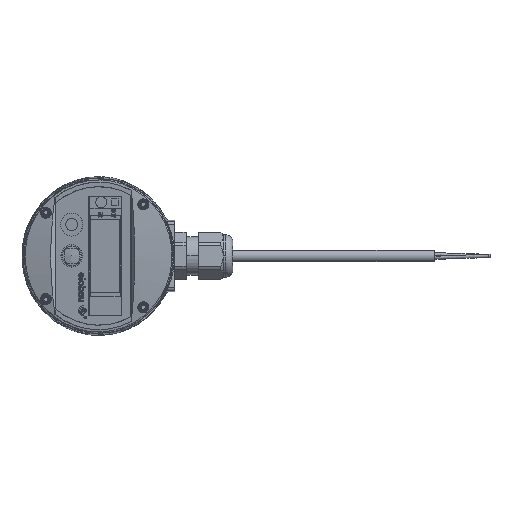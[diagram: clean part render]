
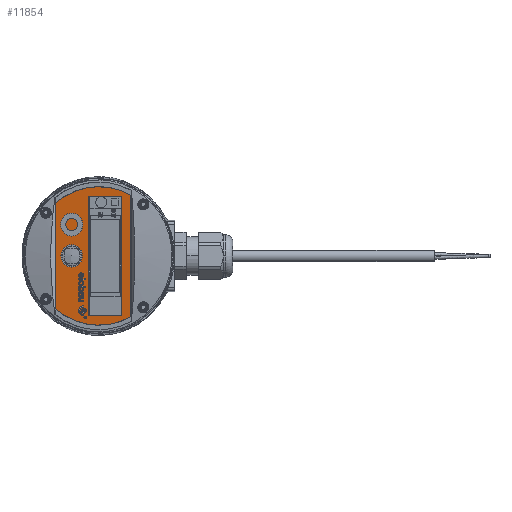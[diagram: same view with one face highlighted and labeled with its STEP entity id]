
A CAD part, top view. The second image highlights one B-rep face of the part: STEP entity #11854.
In plain terms, the highlighted planar face has unit normal (-0.259, 0, 0.966).
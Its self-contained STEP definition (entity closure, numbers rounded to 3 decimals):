
#4818=LINE('',#82771,#7044);
#4819=LINE('',#82776,#7045);
#4820=LINE('',#82779,#7046);
#4821=LINE('',#82782,#7047);
#4822=LINE('',#82784,#7048);
#4823=LINE('',#82786,#7049);
#7044=VECTOR('',#45696,1.);
#7045=VECTOR('',#45699,1.);
#7046=VECTOR('',#45702,1.);
#7047=VECTOR('',#45703,1.);
#7048=VECTOR('',#45704,1.);
#7049=VECTOR('',#45705,1.);
#11854=ADVANCED_FACE('',(#14394,#14395,#14396),#13568,.F.);
#13568=PLANE('',#40406);
#14394=FACE_BOUND('',#15775,.T.);
#14395=FACE_BOUND('',#15776,.T.);
#14396=FACE_BOUND('',#15777,.T.);
#15775=EDGE_LOOP('',(#21834));
#15776=EDGE_LOOP('',(#21835,#21836,#21837,#21838));
#15777=EDGE_LOOP('',(#21839,#21840,#21841,#21842));
#21834=ORIENTED_EDGE('',*,*,#34398,.T.);
#21835=ORIENTED_EDGE('',*,*,#34399,.T.);
#21836=ORIENTED_EDGE('',*,*,#34400,.T.);
#21837=ORIENTED_EDGE('',*,*,#34401,.T.);
#21838=ORIENTED_EDGE('',*,*,#34402,.T.);
#21839=ORIENTED_EDGE('',*,*,#34403,.T.);
#21840=ORIENTED_EDGE('',*,*,#34404,.T.);
#21841=ORIENTED_EDGE('',*,*,#34405,.T.);
#21842=ORIENTED_EDGE('',*,*,#34406,.T.);
#29957=VERTEX_POINT('',#82770);
#29958=VERTEX_POINT('',#82772);
#29959=VERTEX_POINT('',#82773);
#29960=VERTEX_POINT('',#82775);
#29961=VERTEX_POINT('',#82777);
#29962=VERTEX_POINT('',#82780);
#29963=VERTEX_POINT('',#82781);
#29964=VERTEX_POINT('',#82783);
#29965=VERTEX_POINT('',#82785);
#34398=EDGE_CURVE('',#29957,#29957,#38333,.T.);
#34399=EDGE_CURVE('',#29958,#29959,#4818,.T.);
#34400=EDGE_CURVE('',#29959,#29960,#38334,.T.);
#34401=EDGE_CURVE('',#29960,#29961,#4819,.T.);
#34402=EDGE_CURVE('',#29961,#29958,#38335,.T.);
#34403=EDGE_CURVE('',#29962,#29963,#4820,.T.);
#34404=EDGE_CURVE('',#29963,#29964,#4821,.T.);
#34405=EDGE_CURVE('',#29964,#29965,#4822,.T.);
#34406=EDGE_CURVE('',#29965,#29962,#4823,.T.);
#38333=CIRCLE('',#40403,5.);
#38334=CIRCLE('',#40404,30.95);
#38335=CIRCLE('',#40405,30.95);
#40403=AXIS2_PLACEMENT_3D('',#82769,#45694,#45695);
#40404=AXIS2_PLACEMENT_3D('',#82774,#45697,#45698);
#40405=AXIS2_PLACEMENT_3D('',#82778,#45700,#45701);
#40406=AXIS2_PLACEMENT_3D('',#82787,#45706,#45707);
#45694=DIRECTION('',(0.259,0.,-0.966));
#45695=DIRECTION('',(0.966,0.,0.259));
#45696=DIRECTION('',(0.,1.,0.));
#45697=DIRECTION('',(-0.259,0.,0.966));
#45698=DIRECTION('',(0.,-1.,0.));
#45699=DIRECTION('',(0.,-1.,0.));
#45700=DIRECTION('',(-0.259,0.,0.966));
#45701=DIRECTION('',(0.,-1.,0.));
#45702=DIRECTION('',(0.,1.,0.));
#45703=DIRECTION('',(0.966,0.,0.259));
#45704=DIRECTION('',(0.,-1.,0.));
#45705=DIRECTION('',(-0.966,0.,-0.259));
#45706=DIRECTION('',(0.259,0.,-0.966));
#45707=DIRECTION('',(0.966,0.,0.259));
#82769=CARTESIAN_POINT('',(-12.048,0.,38.868));
#82770=CARTESIAN_POINT('',(-7.219,0.,40.162));
#82771=CARTESIAN_POINT('',(14.322,27.182,45.934));
#82772=CARTESIAN_POINT('',(14.322,-27.182,45.934));
#82773=CARTESIAN_POINT('',(14.322,27.182,45.934));
#82774=CARTESIAN_POINT('',(0.026,0.,42.103));
#82775=CARTESIAN_POINT('',(-19.196,23.704,36.953));
#82776=CARTESIAN_POINT('',(-19.196,-23.704,36.953));
#82777=CARTESIAN_POINT('',(-19.196,-23.704,36.953));
#82778=CARTESIAN_POINT('',(0.026,0.,42.103));
#82779=CARTESIAN_POINT('',(-4.321,0.,40.939));
#82780=CARTESIAN_POINT('',(-4.321,-26.5,40.939));
#82781=CARTESIAN_POINT('',(-4.321,26.5,40.939));
#82782=CARTESIAN_POINT('',(0.026,26.5,42.103));
#82783=CARTESIAN_POINT('',(10.168,26.5,44.821));
#82784=CARTESIAN_POINT('',(10.168,0.,44.821));
#82785=CARTESIAN_POINT('',(10.168,-26.5,44.821));
#82786=CARTESIAN_POINT('',(0.026,-26.5,42.103));
#82787=CARTESIAN_POINT('',(0.026,0.,42.103));
